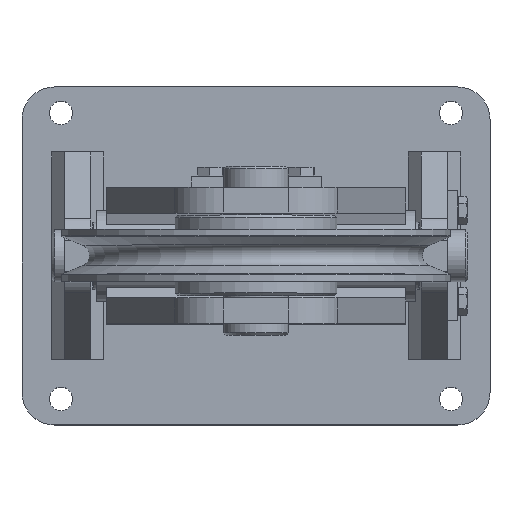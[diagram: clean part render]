
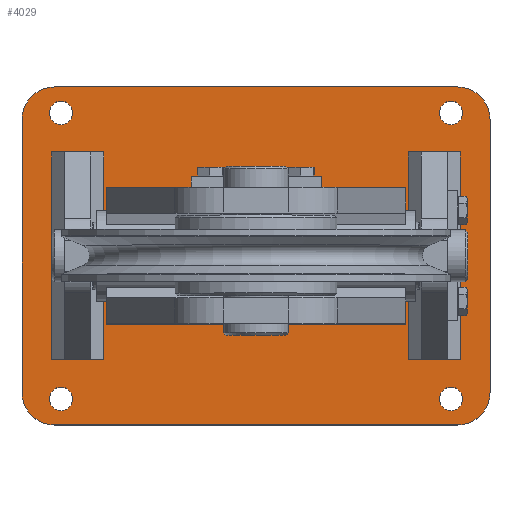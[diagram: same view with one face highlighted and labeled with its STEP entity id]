
A CAD part, top view. The second image highlights one B-rep face of the part: STEP entity #4029.
In plain terms, the highlighted planar face has unit normal (0, 0, 1).
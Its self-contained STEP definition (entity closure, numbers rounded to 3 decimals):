
#183=FACE_BOUND('',#957,.T.);
#184=FACE_BOUND('',#958,.T.);
#185=FACE_BOUND('',#959,.T.);
#186=FACE_BOUND('',#960,.T.);
#244=CIRCLE('',#4709,9.);
#245=CIRCLE('',#4710,9.);
#247=CIRCLE('',#4713,9.);
#248=CIRCLE('',#4714,9.);
#250=CIRCLE('',#4717,9.);
#251=CIRCLE('',#4718,9.);
#253=CIRCLE('',#4721,9.);
#254=CIRCLE('',#4722,9.);
#256=CIRCLE('',#4725,25.);
#258=CIRCLE('',#4729,25.);
#259=CIRCLE('',#4730,25.);
#260=CIRCLE('',#4731,25.);
#724=FACE_OUTER_BOUND('',#956,.T.);
#956=EDGE_LOOP('',(#2824,#2825,#2826,#2827,#2828,#2829,#2830,#2831));
#957=EDGE_LOOP('',(#2832,#2833));
#958=EDGE_LOOP('',(#2834,#2835));
#959=EDGE_LOOP('',(#2836,#2837));
#960=EDGE_LOOP('',(#2838,#2839));
#1265=LINE('',#6845,#1523);
#1268=LINE('',#6851,#1526);
#1269=LINE('',#6855,#1527);
#1270=LINE('',#6859,#1528);
#1523=VECTOR('',#5406,10.);
#1526=VECTOR('',#5411,10.);
#1527=VECTOR('',#5414,10.);
#1528=VECTOR('',#5417,10.);
#1763=VERTEX_POINT('',#6803);
#1764=VERTEX_POINT('',#6804);
#1766=VERTEX_POINT('',#6811);
#1767=VERTEX_POINT('',#6812);
#1769=VERTEX_POINT('',#6819);
#1770=VERTEX_POINT('',#6820);
#1772=VERTEX_POINT('',#6827);
#1773=VERTEX_POINT('',#6828);
#1775=VERTEX_POINT('',#6835);
#1776=VERTEX_POINT('',#6836);
#1779=VERTEX_POINT('',#6844);
#1781=VERTEX_POINT('',#6850);
#1782=VERTEX_POINT('',#6852);
#1783=VERTEX_POINT('',#6854);
#1784=VERTEX_POINT('',#6856);
#1785=VERTEX_POINT('',#6858);
#2183=EDGE_CURVE('',#1763,#1764,#244,.T.);
#2184=EDGE_CURVE('',#1764,#1763,#245,.T.);
#2187=EDGE_CURVE('',#1766,#1767,#247,.T.);
#2188=EDGE_CURVE('',#1767,#1766,#248,.T.);
#2191=EDGE_CURVE('',#1769,#1770,#250,.T.);
#2192=EDGE_CURVE('',#1770,#1769,#251,.T.);
#2195=EDGE_CURVE('',#1772,#1773,#253,.T.);
#2196=EDGE_CURVE('',#1773,#1772,#254,.T.);
#2199=EDGE_CURVE('',#1775,#1776,#256,.T.);
#2203=EDGE_CURVE('',#1779,#1776,#1265,.T.);
#2206=EDGE_CURVE('',#1775,#1781,#1268,.T.);
#2207=EDGE_CURVE('',#1782,#1781,#258,.T.);
#2208=EDGE_CURVE('',#1782,#1783,#1269,.T.);
#2209=EDGE_CURVE('',#1784,#1783,#259,.T.);
#2210=EDGE_CURVE('',#1784,#1785,#1270,.T.);
#2211=EDGE_CURVE('',#1779,#1785,#260,.T.);
#2824=ORIENTED_EDGE('',*,*,#2199,.F.);
#2825=ORIENTED_EDGE('',*,*,#2206,.T.);
#2826=ORIENTED_EDGE('',*,*,#2207,.F.);
#2827=ORIENTED_EDGE('',*,*,#2208,.T.);
#2828=ORIENTED_EDGE('',*,*,#2209,.F.);
#2829=ORIENTED_EDGE('',*,*,#2210,.T.);
#2830=ORIENTED_EDGE('',*,*,#2211,.F.);
#2831=ORIENTED_EDGE('',*,*,#2203,.T.);
#2832=ORIENTED_EDGE('',*,*,#2183,.T.);
#2833=ORIENTED_EDGE('',*,*,#2184,.T.);
#2834=ORIENTED_EDGE('',*,*,#2187,.T.);
#2835=ORIENTED_EDGE('',*,*,#2188,.T.);
#2836=ORIENTED_EDGE('',*,*,#2191,.T.);
#2837=ORIENTED_EDGE('',*,*,#2192,.T.);
#2838=ORIENTED_EDGE('',*,*,#2195,.T.);
#2839=ORIENTED_EDGE('',*,*,#2196,.T.);
#3899=PLANE('',#4728);
#4029=ADVANCED_FACE('',(#724,#183,#184,#185,#186),#3899,.T.);
#4709=AXIS2_PLACEMENT_3D('',#6805,#5362,#5363);
#4710=AXIS2_PLACEMENT_3D('',#6806,#5364,#5365);
#4713=AXIS2_PLACEMENT_3D('',#6813,#5371,#5372);
#4714=AXIS2_PLACEMENT_3D('',#6814,#5373,#5374);
#4717=AXIS2_PLACEMENT_3D('',#6821,#5380,#5381);
#4718=AXIS2_PLACEMENT_3D('',#6822,#5382,#5383);
#4721=AXIS2_PLACEMENT_3D('',#6829,#5389,#5390);
#4722=AXIS2_PLACEMENT_3D('',#6830,#5391,#5392);
#4725=AXIS2_PLACEMENT_3D('',#6837,#5398,#5399);
#4728=AXIS2_PLACEMENT_3D('',#6849,#5409,#5410);
#4729=AXIS2_PLACEMENT_3D('',#6853,#5412,#5413);
#4730=AXIS2_PLACEMENT_3D('',#6857,#5415,#5416);
#4731=AXIS2_PLACEMENT_3D('',#6860,#5418,#5419);
#5362=DIRECTION('center_axis',(0.,0.,-1.));
#5363=DIRECTION('ref_axis',(1.,0.,0.));
#5364=DIRECTION('center_axis',(0.,0.,-1.));
#5365=DIRECTION('ref_axis',(1.,0.,0.));
#5371=DIRECTION('center_axis',(0.,0.,-1.));
#5372=DIRECTION('ref_axis',(1.,0.,0.));
#5373=DIRECTION('center_axis',(0.,0.,-1.));
#5374=DIRECTION('ref_axis',(1.,0.,0.));
#5380=DIRECTION('center_axis',(0.,0.,-1.));
#5381=DIRECTION('ref_axis',(1.,0.,0.));
#5382=DIRECTION('center_axis',(0.,0.,-1.));
#5383=DIRECTION('ref_axis',(1.,0.,0.));
#5389=DIRECTION('center_axis',(0.,0.,-1.));
#5390=DIRECTION('ref_axis',(1.,0.,0.));
#5391=DIRECTION('center_axis',(0.,0.,-1.));
#5392=DIRECTION('ref_axis',(1.,0.,0.));
#5398=DIRECTION('center_axis',(0.,0.,-1.));
#5399=DIRECTION('ref_axis',(0.707,-0.707,0.));
#5406=DIRECTION('',(1.,0.,0.));
#5409=DIRECTION('center_axis',(0.,0.,1.));
#5410=DIRECTION('ref_axis',(1.,0.,0.));
#5411=DIRECTION('',(0.,1.,0.));
#5412=DIRECTION('center_axis',(0.,0.,-1.));
#5413=DIRECTION('ref_axis',(0.707,0.707,0.));
#5414=DIRECTION('',(-1.,0.,0.));
#5415=DIRECTION('center_axis',(0.,0.,-1.));
#5416=DIRECTION('ref_axis',(-0.707,0.707,0.));
#5417=DIRECTION('',(0.,-1.,0.));
#5418=DIRECTION('center_axis',(0.,0.,-1.));
#5419=DIRECTION('ref_axis',(-0.707,-0.707,0.));
#6803=CARTESIAN_POINT('',(159.,-110.,20.));
#6804=CARTESIAN_POINT('',(141.,-110.,20.));
#6805=CARTESIAN_POINT('Origin',(150.,-110.,20.));
#6806=CARTESIAN_POINT('Origin',(150.,-110.,20.));
#6811=CARTESIAN_POINT('',(-141.,110.,20.));
#6812=CARTESIAN_POINT('',(-159.,110.,20.));
#6813=CARTESIAN_POINT('Origin',(-150.,110.,20.));
#6814=CARTESIAN_POINT('Origin',(-150.,110.,20.));
#6819=CARTESIAN_POINT('',(159.,110.,20.));
#6820=CARTESIAN_POINT('',(141.,110.,20.));
#6821=CARTESIAN_POINT('Origin',(150.,110.,20.));
#6822=CARTESIAN_POINT('Origin',(150.,110.,20.));
#6827=CARTESIAN_POINT('',(-141.,-110.,20.));
#6828=CARTESIAN_POINT('',(-159.,-110.,20.));
#6829=CARTESIAN_POINT('Origin',(-150.,-110.,20.));
#6830=CARTESIAN_POINT('Origin',(-150.,-110.,20.));
#6835=CARTESIAN_POINT('',(180.,-105.,20.));
#6836=CARTESIAN_POINT('',(155.,-130.,20.));
#6837=CARTESIAN_POINT('Origin',(155.,-105.,20.));
#6844=CARTESIAN_POINT('',(-155.,-130.,20.));
#6845=CARTESIAN_POINT('',(180.,-130.,20.));
#6849=CARTESIAN_POINT('Origin',(0.,0.,20.));
#6850=CARTESIAN_POINT('',(180.,105.,20.));
#6851=CARTESIAN_POINT('',(180.,130.,20.));
#6852=CARTESIAN_POINT('',(155.,130.,20.));
#6853=CARTESIAN_POINT('Origin',(155.,105.,20.));
#6854=CARTESIAN_POINT('',(-155.,130.,20.));
#6855=CARTESIAN_POINT('',(-180.,130.,20.));
#6856=CARTESIAN_POINT('',(-180.,105.,20.));
#6857=CARTESIAN_POINT('Origin',(-155.,105.,20.));
#6858=CARTESIAN_POINT('',(-180.,-105.,20.));
#6859=CARTESIAN_POINT('',(-180.,-130.,20.));
#6860=CARTESIAN_POINT('Origin',(-155.,-105.,20.));
